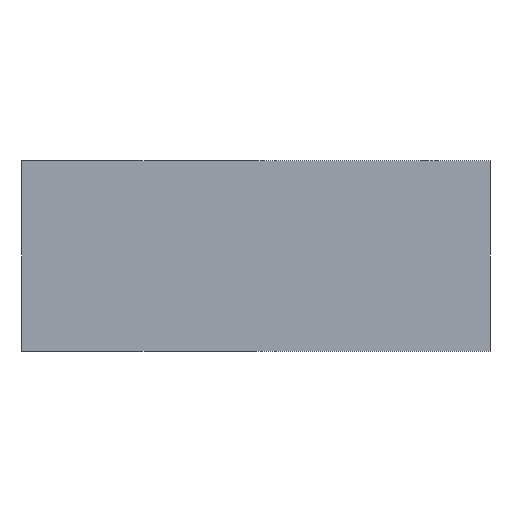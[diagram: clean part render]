
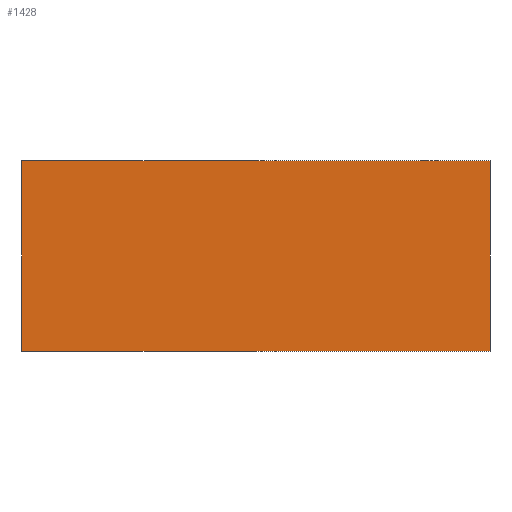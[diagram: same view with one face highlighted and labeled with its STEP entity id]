
A CAD part, left-side view. The second image highlights one B-rep face of the part: STEP entity #1428.
In plain terms, the highlighted planar face has unit normal (-1, 0, 0).
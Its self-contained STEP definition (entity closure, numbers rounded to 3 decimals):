
#18 = CARTESIAN_POINT ( 'NONE',  ( -56., -60.5, 0. ) ) ;
#25 = EDGE_LOOP ( 'NONE', ( #62, #506, #213, #70 ) ) ;
#54 = DIRECTION ( 'NONE',  ( 0., -1., 0. ) ) ;
#62 = ORIENTED_EDGE ( 'NONE', *, *, #1319, .T. ) ;
#70 = ORIENTED_EDGE ( 'NONE', *, *, #716, .T. ) ;
#138 = DIRECTION ( 'NONE',  ( 1., 0., 0. ) ) ;
#197 = CARTESIAN_POINT ( 'NONE',  ( -56., 60.5, 49.3 ) ) ;
#213 = ORIENTED_EDGE ( 'NONE', *, *, #861, .F. ) ;
#289 = CARTESIAN_POINT ( 'NONE',  ( -56., -60.5, 49.3 ) ) ;
#331 = CARTESIAN_POINT ( 'NONE',  ( -56., -60.5, 49.3 ) ) ;
#340 = VECTOR ( 'NONE', #1480, 1000. ) ;
#355 = DIRECTION ( 'NONE',  ( 0., -1., 0. ) ) ;
#469 = LINE ( 'NONE', #197, #1252 ) ;
#489 = EDGE_CURVE ( 'NONE', #682, #1369, #752, .T. ) ;
#506 = ORIENTED_EDGE ( 'NONE', *, *, #489, .F. ) ;
#661 = DIRECTION ( 'NONE',  ( 0., 0., -1. ) ) ;
#682 = VERTEX_POINT ( 'NONE', #289 ) ;
#716 = EDGE_CURVE ( 'NONE', #1346, #1250, #469, .T. ) ;
#752 = LINE ( 'NONE', #331, #340 ) ;
#814 = FACE_OUTER_BOUND ( 'NONE', #25, .T. ) ;
#822 = VECTOR ( 'NONE', #54, 1000. ) ;
#844 = LINE ( 'NONE', #1075, #822 ) ;
#861 = EDGE_CURVE ( 'NONE', #1346, #682, #844, .T. ) ;
#914 = CARTESIAN_POINT ( 'NONE',  ( -56., 60.5, 49.3 ) ) ;
#943 = DIRECTION ( 'NONE',  ( 0., 0., -1. ) ) ;
#980 = VECTOR ( 'NONE', #355, 1000. ) ;
#1004 = CARTESIAN_POINT ( 'NONE',  ( -56., 60.5, 0. ) ) ;
#1075 = CARTESIAN_POINT ( 'NONE',  ( -56., 60.5, 49.3 ) ) ;
#1157 = LINE ( 'NONE', #1264, #980 ) ;
#1178 = PLANE ( 'NONE',  #1228 ) ;
#1228 = AXIS2_PLACEMENT_3D ( 'NONE', #1401, #138, #943 ) ;
#1250 = VERTEX_POINT ( 'NONE', #1004 ) ;
#1252 = VECTOR ( 'NONE', #661, 1000. ) ;
#1264 = CARTESIAN_POINT ( 'NONE',  ( -56., 60.5, 0. ) ) ;
#1319 = EDGE_CURVE ( 'NONE', #1250, #1369, #1157, .T. ) ;
#1346 = VERTEX_POINT ( 'NONE', #914 ) ;
#1369 = VERTEX_POINT ( 'NONE', #18 ) ;
#1401 = CARTESIAN_POINT ( 'NONE',  ( -56., 60.5, 49.3 ) ) ;
#1428 = ADVANCED_FACE ( 'NONE', ( #814 ), #1178, .F. ) ;
#1480 = DIRECTION ( 'NONE',  ( 0., 0., -1. ) ) ;
